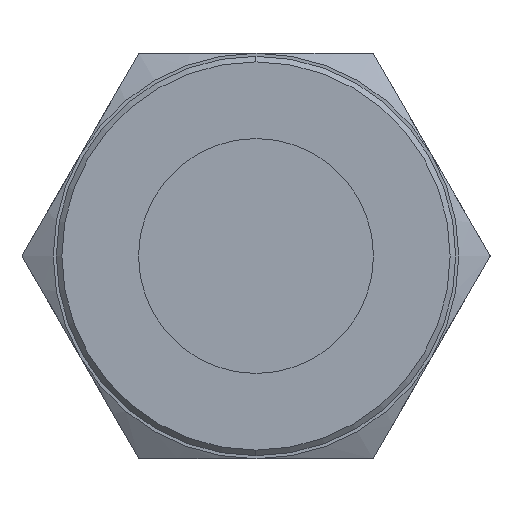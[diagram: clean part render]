
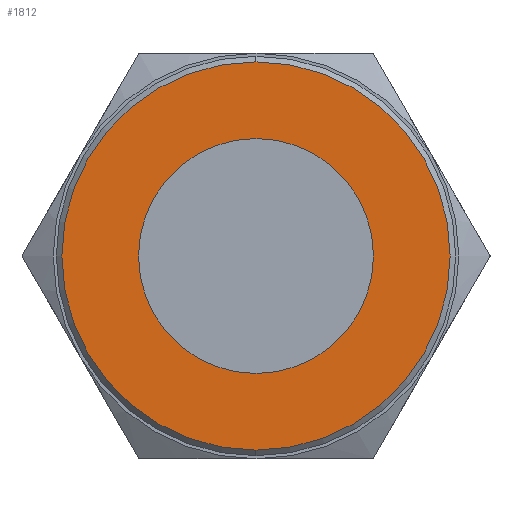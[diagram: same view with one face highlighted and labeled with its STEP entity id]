
A CAD part, left-side view. The second image highlights one B-rep face of the part: STEP entity #1812.
In plain terms, the highlighted planar face has unit normal (-1, 0, 0).
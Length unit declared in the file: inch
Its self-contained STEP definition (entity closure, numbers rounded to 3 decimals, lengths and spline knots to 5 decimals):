
#62 = ORIENTED_EDGE ( 'NONE', *, *, #3445, .T. ) ;
#63 = ORIENTED_EDGE ( 'NONE', *, *, #459, .T. ) ;
#64 = ORIENTED_EDGE ( 'NONE', *, *, #3428, .T. ) ;
#65 = ORIENTED_EDGE ( 'NONE', *, *, #3496, .T. ) ;
#107 = CIRCLE ( 'NONE', #110, 0.2535 ) ;
#110 = AXIS2_PLACEMENT_3D ( 'NONE', #2683, #2684, #2685 ) ;
#459 = EDGE_CURVE ( 'NONE', #3220, #3214, #107, .T. ) ;
#1342 = AXIS2_PLACEMENT_3D ( 'NONE', #1673, #1674, #1675 ) ;
#1361 = CIRCLE ( 'NONE', #1342, 0.419 ) ;
#1450 = AXIS2_PLACEMENT_3D ( 'NONE', #2106, #2122, #2123 ) ;
#1580 = CARTESIAN_POINT ( 'NONE',  ( -0.392, 0., 0.419 ) ) ;
#1598 = CARTESIAN_POINT ( 'NONE',  ( -0.392, 0., 0.2535 ) ) ;
#1601 = CARTESIAN_POINT ( 'NONE',  ( -0.392, 0., -0.419 ) ) ;
#1604 = CARTESIAN_POINT ( 'NONE',  ( -0.392, 0., -0.2535 ) ) ;
#1673 = CARTESIAN_POINT ( 'NONE',  ( -0.392, 0., 0. ) ) ;
#1674 = DIRECTION ( 'NONE',  ( -1., 0., 0. ) ) ;
#1675 = DIRECTION ( 'NONE',  ( 0., 0., -1. ) ) ;
#1732 = CARTESIAN_POINT ( 'NONE',  ( -0.392, 0., 0. ) ) ;
#1733 = DIRECTION ( 'NONE',  ( 1., 0., 0. ) ) ;
#1734 = DIRECTION ( 'NONE',  ( 0., 0., -1. ) ) ;
#1812 = ADVANCED_FACE ( 'NONE', ( #2118, #2119 ), #2120, .F. ) ;
#2106 = CARTESIAN_POINT ( 'NONE',  ( -0.392, -0.50518, 0. ) ) ;
#2118 = FACE_OUTER_BOUND ( 'NONE', #2929, .T. ) ;
#2119 = FACE_BOUND ( 'NONE', #2939, .T. ) ;
#2120 = PLANE ( 'NONE',  #1450 ) ;
#2122 = DIRECTION ( 'NONE',  ( 1., 0., 0. ) ) ;
#2123 = DIRECTION ( 'NONE',  ( 0., 0., -1. ) ) ;
#2683 = CARTESIAN_POINT ( 'NONE',  ( -0.392, 0., 0. ) ) ;
#2684 = DIRECTION ( 'NONE',  ( 1., 0., 0. ) ) ;
#2685 = DIRECTION ( 'NONE',  ( 0., 0., -1. ) ) ;
#2929 = EDGE_LOOP ( 'NONE', ( #65, #64 ) ) ;
#2939 = EDGE_LOOP ( 'NONE', ( #63, #62 ) ) ;
#3042 = CIRCLE ( 'NONE', #3057, 0.419 ) ;
#3057 = AXIS2_PLACEMENT_3D ( 'NONE', #3798, #3799, #3800 ) ;
#3174 = CIRCLE ( 'NONE', #3176, 0.2535 ) ;
#3176 = AXIS2_PLACEMENT_3D ( 'NONE', #1732, #1733, #1734 ) ;
#3200 = VERTEX_POINT ( 'NONE', #1580 ) ;
#3214 = VERTEX_POINT ( 'NONE', #1598 ) ;
#3217 = VERTEX_POINT ( 'NONE', #1601 ) ;
#3220 = VERTEX_POINT ( 'NONE', #1604 ) ;
#3428 = EDGE_CURVE ( 'NONE', #3200, #3217, #1361, .T. ) ;
#3445 = EDGE_CURVE ( 'NONE', #3214, #3220, #3174, .T. ) ;
#3496 = EDGE_CURVE ( 'NONE', #3217, #3200, #3042, .T. ) ;
#3798 = CARTESIAN_POINT ( 'NONE',  ( -0.392, 0., 0. ) ) ;
#3799 = DIRECTION ( 'NONE',  ( -1., 0., 0. ) ) ;
#3800 = DIRECTION ( 'NONE',  ( 0., 0., -1. ) ) ;
